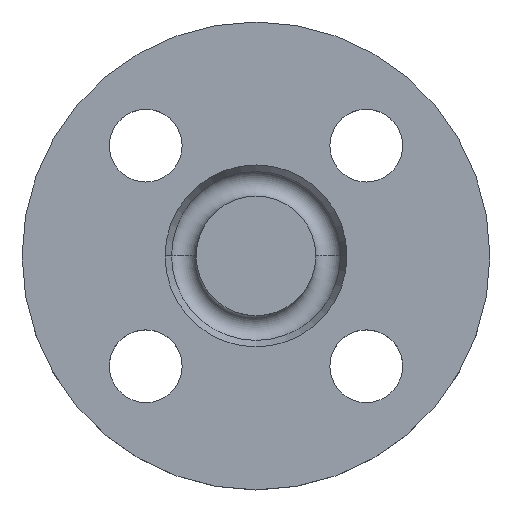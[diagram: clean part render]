
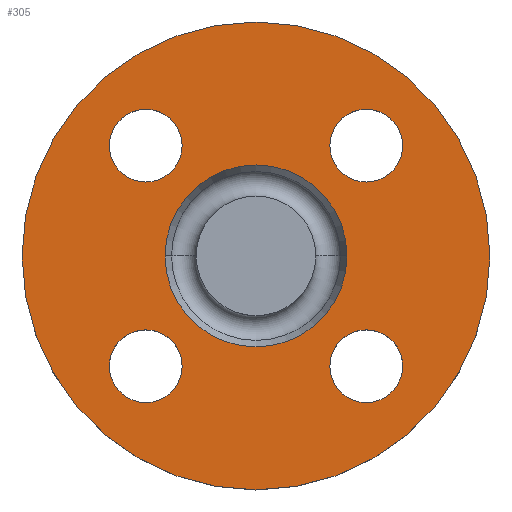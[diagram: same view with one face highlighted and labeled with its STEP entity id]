
A CAD part, top view. The second image highlights one B-rep face of the part: STEP entity #305.
In plain terms, the highlighted planar face has unit normal (0, 0, 1).
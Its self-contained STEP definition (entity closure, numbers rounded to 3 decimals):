
#12 = AXIS2_PLACEMENT_3D ( 'NONE', #63, #62, #61 ) ;
#31 = CIRCLE ( 'NONE', #43, 17.5 ) ;
#39 = EDGE_CURVE ( 'NONE', #577, #407, #31, .T. ) ;
#43 = AXIS2_PLACEMENT_3D ( 'NONE', #631, #632, #634 ) ;
#46 = CARTESIAN_POINT ( 'NONE',  ( 21.213, 21.213, -2. ) ) ;
#61 = DIRECTION ( 'NONE',  ( 1., 0., 0. ) ) ;
#62 = DIRECTION ( 'NONE',  ( 0., 0., -1. ) ) ;
#63 = CARTESIAN_POINT ( 'NONE',  ( -21.213, -21.213, -2. ) ) ;
#74 = CARTESIAN_POINT ( 'NONE',  ( 21.213, -21.213, -2. ) ) ;
#89 = CARTESIAN_POINT ( 'NONE',  ( 14.213, 21.213, -2. ) ) ;
#91 = EDGE_CURVE ( 'NONE', #540, #573, #113, .T. ) ;
#97 = CARTESIAN_POINT ( 'NONE',  ( -17.5, 0., -2. ) ) ;
#98 = CARTESIAN_POINT ( 'NONE',  ( -14.213, 21.213, -2. ) ) ;
#100 = CARTESIAN_POINT ( 'NONE',  ( -28.213, -21.213, -2. ) ) ;
#102 = DIRECTION ( 'NONE',  ( 1., 0., 0. ) ) ;
#105 = DIRECTION ( 'NONE',  ( -1., 0., 0. ) ) ;
#106 = DIRECTION ( 'NONE',  ( 0., 0., -1. ) ) ;
#107 = CARTESIAN_POINT ( 'NONE',  ( 0., 0., -2. ) ) ;
#108 = CARTESIAN_POINT ( 'NONE',  ( -45., 0., -2. ) ) ;
#111 = CARTESIAN_POINT ( 'NONE',  ( 45., 0., -2. ) ) ;
#113 = CIRCLE ( 'NONE', #115, 7. ) ;
#115 = AXIS2_PLACEMENT_3D ( 'NONE', #663, #664, #665 ) ;
#118 = DIRECTION ( 'NONE',  ( -1., 0., 0. ) ) ;
#121 = CARTESIAN_POINT ( 'NONE',  ( 0., 0., -2. ) ) ;
#122 = DIRECTION ( 'NONE',  ( 0., 0., -1. ) ) ;
#146 = CARTESIAN_POINT ( 'NONE',  ( 28.213, -21.213, -2. ) ) ;
#166 = CARTESIAN_POINT ( 'NONE',  ( 28.213, 21.213, -2. ) ) ;
#174 = CARTESIAN_POINT ( 'NONE',  ( 17.5, 0., -2. ) ) ;
#178 = DIRECTION ( 'NONE',  ( 0., 0., -1. ) ) ;
#183 = CARTESIAN_POINT ( 'NONE',  ( -28.213, 21.213, -2. ) ) ;
#185 = VERTEX_POINT ( 'NONE', #686 ) ;
#187 = EDGE_CURVE ( 'NONE', #400, #185, #423, .T. ) ;
#192 = CIRCLE ( 'NONE', #193, 45. ) ;
#193 = AXIS2_PLACEMENT_3D ( 'NONE', #705, #706, #707 ) ;
#194 = CIRCLE ( 'NONE', #198, 7. ) ;
#196 = EDGE_CURVE ( 'NONE', #561, #563, #192, .T. ) ;
#197 = EDGE_CURVE ( 'NONE', #410, #569, #194, .T. ) ;
#198 = AXIS2_PLACEMENT_3D ( 'NONE', #708, #709, #710 ) ;
#199 = CIRCLE ( 'NONE', #200, 7. ) ;
#200 = AXIS2_PLACEMENT_3D ( 'NONE', #711, #715, #716 ) ;
#202 = EDGE_CURVE ( 'NONE', #573, #540, #199, .T. ) ;
#218 = CARTESIAN_POINT ( 'NONE',  ( 21.213, 21.213, -2. ) ) ;
#219 = DIRECTION ( 'NONE',  ( 0., 0., -1. ) ) ;
#221 = DIRECTION ( 'NONE',  ( 1., 0., 0. ) ) ;
#261 = CIRCLE ( 'NONE', #262, 7. ) ;
#262 = AXIS2_PLACEMENT_3D ( 'NONE', #218, #219, #221 ) ;
#271 = EDGE_CURVE ( 'NONE', #551, #589, #261, .T. ) ;
#295 = CIRCLE ( 'NONE', #12, 7. ) ;
#299 = AXIS2_PLACEMENT_3D ( 'NONE', #365, #366, #368 ) ;
#305 = ADVANCED_FACE ( 'NONE', ( #354, #355, #356, #357, #358, #360 ), #361, .T. ) ;
#340 = CIRCLE ( 'NONE', #367, 45. ) ;
#342 = CIRCLE ( 'NONE', #362, 7. ) ;
#354 = FACE_BOUND ( 'NONE', #399, .T. ) ;
#355 = FACE_BOUND ( 'NONE', #538, .T. ) ;
#356 = FACE_BOUND ( 'NONE', #401, .T. ) ;
#357 = FACE_BOUND ( 'NONE', #402, .T. ) ;
#358 = FACE_BOUND ( 'NONE', #432, .T. ) ;
#359 = AXIS2_PLACEMENT_3D ( 'NONE', #46, #178, #642 ) ;
#360 = FACE_OUTER_BOUND ( 'NONE', #508, .T. ) ;
#361 = PLANE ( 'NONE',  #299 ) ;
#362 = AXIS2_PLACEMENT_3D ( 'NONE', #74, #376, #102 ) ;
#364 = CIRCLE ( 'NONE', #359, 7. ) ;
#365 = CARTESIAN_POINT ( 'NONE',  ( 45., 0., -2. ) ) ;
#366 = DIRECTION ( 'NONE',  ( 0., 0., 1. ) ) ;
#367 = AXIS2_PLACEMENT_3D ( 'NONE', #121, #122, #118 ) ;
#368 = DIRECTION ( 'NONE',  ( 1., 0., 0. ) ) ;
#375 = CARTESIAN_POINT ( 'NONE',  ( -14.213, -21.213, -2. ) ) ;
#376 = DIRECTION ( 'NONE',  ( 0., 0., -1. ) ) ;
#399 = EDGE_LOOP ( 'NONE', ( #470, #472 ) ) ;
#400 = VERTEX_POINT ( 'NONE', #146 ) ;
#401 = EDGE_LOOP ( 'NONE', ( #478, #480 ) ) ;
#402 = EDGE_LOOP ( 'NONE', ( #481, #482 ) ) ;
#407 = VERTEX_POINT ( 'NONE', #174 ) ;
#410 = VERTEX_POINT ( 'NONE', #375 ) ;
#421 = AXIS2_PLACEMENT_3D ( 'NONE', #690, #691, #692 ) ;
#423 = CIRCLE ( 'NONE', #421, 7. ) ;
#424 = EDGE_CURVE ( 'NONE', #563, #561, #340, .T. ) ;
#426 = EDGE_CURVE ( 'NONE', #589, #551, #364, .T. ) ;
#432 = EDGE_LOOP ( 'NONE', ( #483, #484 ) ) ;
#435 = EDGE_CURVE ( 'NONE', #185, #400, #342, .T. ) ;
#470 = ORIENTED_EDGE ( 'NONE', *, *, #187, .T. ) ;
#472 = ORIENTED_EDGE ( 'NONE', *, *, #435, .T. ) ;
#475 = ORIENTED_EDGE ( 'NONE', *, *, #197, .T. ) ;
#477 = ORIENTED_EDGE ( 'NONE', *, *, #725, .T. ) ;
#478 = ORIENTED_EDGE ( 'NONE', *, *, #202, .T. ) ;
#480 = ORIENTED_EDGE ( 'NONE', *, *, #91, .T. ) ;
#481 = ORIENTED_EDGE ( 'NONE', *, *, #271, .T. ) ;
#482 = ORIENTED_EDGE ( 'NONE', *, *, #426, .T. ) ;
#483 = ORIENTED_EDGE ( 'NONE', *, *, #671, .T. ) ;
#484 = ORIENTED_EDGE ( 'NONE', *, *, #39, .T. ) ;
#485 = ORIENTED_EDGE ( 'NONE', *, *, #424, .F. ) ;
#486 = ORIENTED_EDGE ( 'NONE', *, *, #196, .F. ) ;
#508 = EDGE_LOOP ( 'NONE', ( #485, #486 ) ) ;
#538 = EDGE_LOOP ( 'NONE', ( #475, #477 ) ) ;
#540 = VERTEX_POINT ( 'NONE', #183 ) ;
#551 = VERTEX_POINT ( 'NONE', #166 ) ;
#561 = VERTEX_POINT ( 'NONE', #108 ) ;
#563 = VERTEX_POINT ( 'NONE', #111 ) ;
#569 = VERTEX_POINT ( 'NONE', #100 ) ;
#573 = VERTEX_POINT ( 'NONE', #98 ) ;
#577 = VERTEX_POINT ( 'NONE', #97 ) ;
#589 = VERTEX_POINT ( 'NONE', #89 ) ;
#631 = CARTESIAN_POINT ( 'NONE',  ( 0., 0., -2. ) ) ;
#632 = DIRECTION ( 'NONE',  ( 0., 0., -1. ) ) ;
#634 = DIRECTION ( 'NONE',  ( -1., 0., 0. ) ) ;
#642 = DIRECTION ( 'NONE',  ( 1., 0., 0. ) ) ;
#651 = CIRCLE ( 'NONE', #728, 17.5 ) ;
#663 = CARTESIAN_POINT ( 'NONE',  ( -21.213, 21.213, -2. ) ) ;
#664 = DIRECTION ( 'NONE',  ( 0., 0., -1. ) ) ;
#665 = DIRECTION ( 'NONE',  ( 1., 0., 0. ) ) ;
#671 = EDGE_CURVE ( 'NONE', #407, #577, #651, .T. ) ;
#686 = CARTESIAN_POINT ( 'NONE',  ( 14.213, -21.213, -2. ) ) ;
#690 = CARTESIAN_POINT ( 'NONE',  ( 21.213, -21.213, -2. ) ) ;
#691 = DIRECTION ( 'NONE',  ( 0., 0., -1. ) ) ;
#692 = DIRECTION ( 'NONE',  ( 1., 0., 0. ) ) ;
#705 = CARTESIAN_POINT ( 'NONE',  ( 0., 0., -2. ) ) ;
#706 = DIRECTION ( 'NONE',  ( 0., 0., -1. ) ) ;
#707 = DIRECTION ( 'NONE',  ( -1., 0., 0. ) ) ;
#708 = CARTESIAN_POINT ( 'NONE',  ( -21.213, -21.213, -2. ) ) ;
#709 = DIRECTION ( 'NONE',  ( 0., 0., -1. ) ) ;
#710 = DIRECTION ( 'NONE',  ( 1., 0., 0. ) ) ;
#711 = CARTESIAN_POINT ( 'NONE',  ( -21.213, 21.213, -2. ) ) ;
#715 = DIRECTION ( 'NONE',  ( 0., 0., -1. ) ) ;
#716 = DIRECTION ( 'NONE',  ( 1., 0., 0. ) ) ;
#725 = EDGE_CURVE ( 'NONE', #569, #410, #295, .T. ) ;
#728 = AXIS2_PLACEMENT_3D ( 'NONE', #107, #106, #105 ) ;
